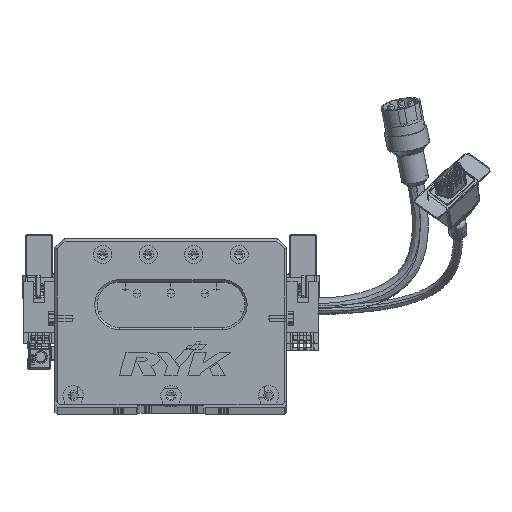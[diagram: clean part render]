
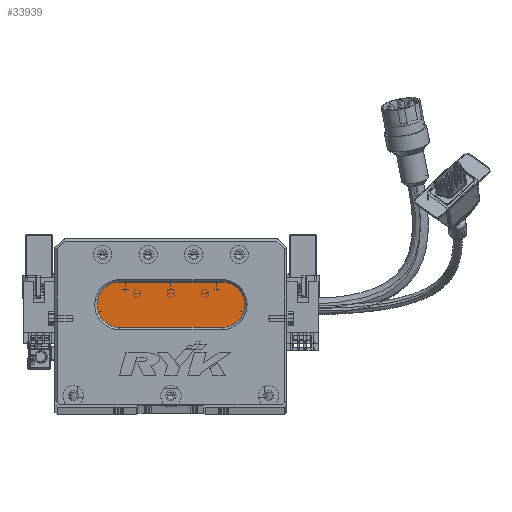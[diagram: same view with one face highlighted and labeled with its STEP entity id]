
A CAD part, top view. The second image highlights one B-rep face of the part: STEP entity #33939.
In plain terms, the highlighted planar face has unit normal (0, 0, 1) as drawn and (0, 0, -1) by its records, which use the part's own axes.
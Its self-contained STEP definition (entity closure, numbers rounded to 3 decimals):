
#1188 = AXIS2_PLACEMENT_3D ( 'NONE', #30215, #36897, #48150 ) ;
#1684 = CIRCLE ( 'NONE', #58927, 10. ) ;
#1999 = VERTEX_POINT ( 'NONE', #42073 ) ;
#2228 = LINE ( 'NONE', #16377, #34827 ) ;
#5384 = PLANE ( 'NONE',  #55788 ) ;
#7190 = CARTESIAN_POINT ( 'NONE',  ( 28.5, 44., 13. ) ) ;
#7463 = DIRECTION ( 'NONE',  ( 0., 0., -1. ) ) ;
#7720 = DIRECTION ( 'NONE',  ( -1., 0., 0. ) ) ;
#8441 = DIRECTION ( 'NONE',  ( -1., 0., 0. ) ) ;
#8869 = CARTESIAN_POINT ( 'NONE',  ( 73.5, 54., 13. ) ) ;
#11992 = VERTEX_POINT ( 'NONE', #19336 ) ;
#14032 = ORIENTED_EDGE ( 'NONE', *, *, #36195, .T. ) ;
#16377 = CARTESIAN_POINT ( 'NONE',  ( 73.5, 54., 13. ) ) ;
#18803 = CARTESIAN_POINT ( 'NONE',  ( 28.5, 54., 13. ) ) ;
#19336 = CARTESIAN_POINT ( 'NONE',  ( 73.5, 34., 13. ) ) ;
#20102 = CIRCLE ( 'NONE', #1188, 10. ) ;
#21173 = DIRECTION ( 'NONE',  ( 0., 0., -1. ) ) ;
#23435 = AXIS2_PLACEMENT_3D ( 'NONE', #7190, #7463, #7720 ) ;
#24127 = DIRECTION ( 'NONE',  ( -1., 0., 0. ) ) ;
#27730 = VERTEX_POINT ( 'NONE', #18803 ) ;
#30215 = CARTESIAN_POINT ( 'NONE',  ( 73.5, 44., 13. ) ) ;
#32571 = EDGE_CURVE ( 'NONE', #33465, #1999, #74792, .T. ) ;
#33465 = VERTEX_POINT ( 'NONE', #42147 ) ;
#33508 = DIRECTION ( 'NONE',  ( -1., 0., 0. ) ) ;
#33939 = ADVANCED_FACE ( 'NONE', ( #50553 ), #5384, .T. ) ;
#34827 = VECTOR ( 'NONE', #61076, 1000. ) ;
#35137 = EDGE_CURVE ( 'NONE', #1999, #27730, #1684, .T. ) ;
#36151 = VECTOR ( 'NONE', #8441, 1000. ) ;
#36195 = EDGE_CURVE ( 'NONE', #11992, #33465, #66760, .T. ) ;
#36450 = CARTESIAN_POINT ( 'NONE',  ( 73.5, 44., 13. ) ) ;
#36520 = ORIENTED_EDGE ( 'NONE', *, *, #32571, .T. ) ;
#36897 = DIRECTION ( 'NONE',  ( 0., 0., -1. ) ) ;
#42073 = CARTESIAN_POINT ( 'NONE',  ( 18.5, 44., 13. ) ) ;
#42147 = CARTESIAN_POINT ( 'NONE',  ( 28.5, 34., 13. ) ) ;
#42846 = DIRECTION ( 'NONE',  ( 0., 0., -1. ) ) ;
#48150 = DIRECTION ( 'NONE',  ( -1., 0., 0. ) ) ;
#49351 = ORIENTED_EDGE ( 'NONE', *, *, #78122, .T. ) ;
#50553 = FACE_OUTER_BOUND ( 'NONE', #66259, .T. ) ;
#55788 = AXIS2_PLACEMENT_3D ( 'NONE', #36450, #42846, #24127 ) ;
#57863 = CARTESIAN_POINT ( 'NONE',  ( 28.5, 44., 13. ) ) ;
#58927 = AXIS2_PLACEMENT_3D ( 'NONE', #57863, #21173, #33508 ) ;
#59540 = EDGE_CURVE ( 'NONE', #27730, #73197, #2228, .T. ) ;
#59958 = ORIENTED_EDGE ( 'NONE', *, *, #59540, .T. ) ;
#61076 = DIRECTION ( 'NONE',  ( 1., 0., 0. ) ) ;
#66069 = ORIENTED_EDGE ( 'NONE', *, *, #35137, .T. ) ;
#66259 = EDGE_LOOP ( 'NONE', ( #49351, #14032, #36520, #66069, #59958 ) ) ;
#66760 = LINE ( 'NONE', #69718, #36151 ) ;
#69718 = CARTESIAN_POINT ( 'NONE',  ( 73.5, 34., 13. ) ) ;
#73197 = VERTEX_POINT ( 'NONE', #8869 ) ;
#74792 = CIRCLE ( 'NONE', #23435, 10. ) ;
#78122 = EDGE_CURVE ( 'NONE', #73197, #11992, #20102, .T. ) ;
